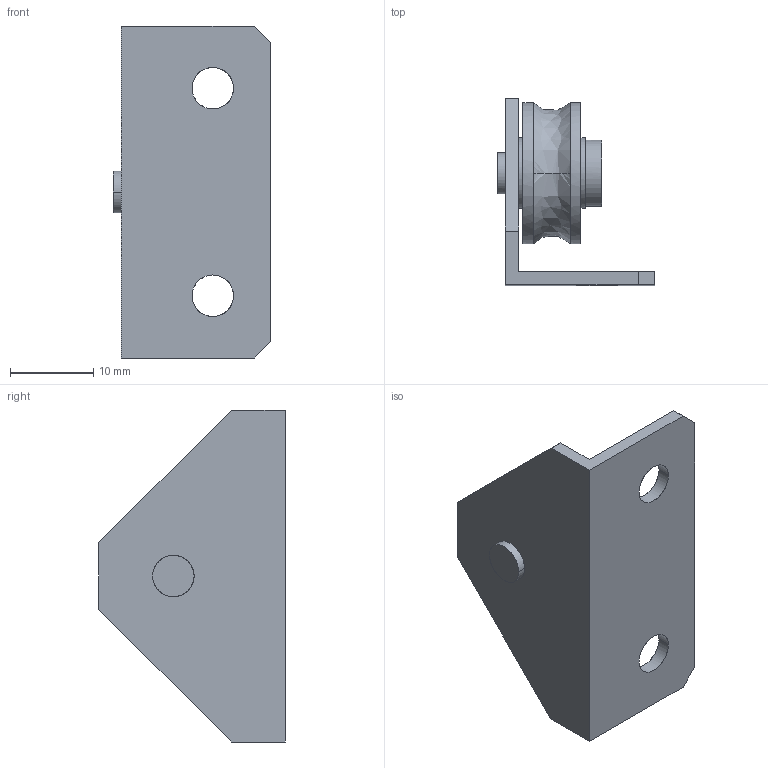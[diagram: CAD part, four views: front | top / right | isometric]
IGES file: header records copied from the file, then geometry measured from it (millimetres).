
Global section: file name: No Iges File Name specified; native system: AutoDesk Inventor R11.0; preprocessor: AutoDesk Inventor Iges Exporter R11.0; author: No Author specified; organization: No Organization specified; date: 20190426.192142; units: millimetre
Bounding box: 19 x 22.5 x 40 mm (x, y, z)
Surface area: 3723.7 mm2 (no closed solid volume)
Topology: 0 solids, 0 shells, 38 faces, 252 edges, 252 vertices
Faces by surface type: bspline 38
